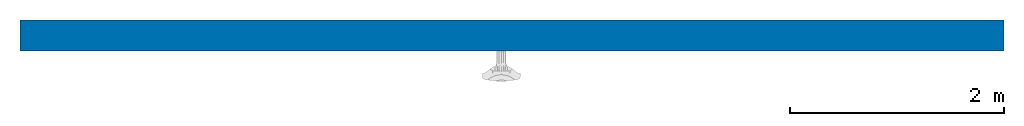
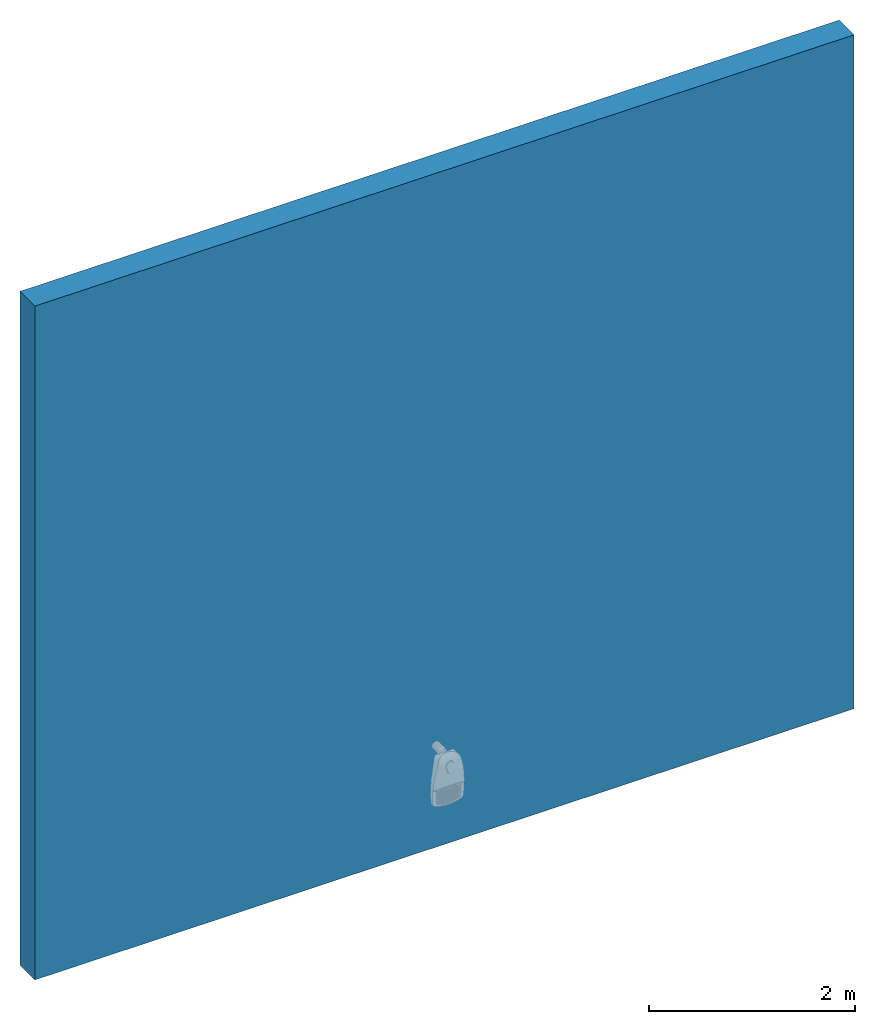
# One storey, incomplete: 1 wall.
"""IFC2X3 building model written with IfcOpenShell, lengths in millimetres."""

from ifc_helpers import new_model, entity, si_unit, converted_unit, derived_unit, direction, frame, frame_2d, origin, place, context, subcontext, project, spatial, rectangle, extrude, material, layer, layer_set, layer_usage, type_object, element, save


model = new_model("IFC2X3")

# Units and contexts
model_context = context("Model", 3, precision=0.01, world=origin(), true_north=direction((6.12303176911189e-17, 1.0)))
body_context = subcontext(model_context, "Body", "Model", "MODEL_VIEW")
ifc_project = project(units=[si_unit("LENGTHUNIT", "METRE", prefix="MILLI"), si_unit("AREAUNIT", "SQUARE_METRE"), si_unit("VOLUMEUNIT", "CUBIC_METRE"), converted_unit("PLANEANGLEUNIT", "DEGREE", entity("IfcRatioMeasure", 0.0174532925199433), si_unit("PLANEANGLEUNIT", "RADIAN"), dimensions=[0, 0, 0, 0, 0, 0, 0]), si_unit("MASSUNIT", "GRAM", prefix="KILO"), si_unit("TIMEUNIT", "SECOND"), si_unit("FREQUENCYUNIT", "HERTZ"), si_unit("THERMODYNAMICTEMPERATUREUNIT", "DEGREE_CELSIUS"), derived_unit("THERMALTRANSMITTANCEUNIT", [(si_unit("MASSUNIT", "GRAM", prefix="KILO"), 1), (si_unit("THERMODYNAMICTEMPERATUREUNIT", "KELVIN"), -1), (si_unit("TIMEUNIT", "SECOND"), -3)]), derived_unit("VOLUMETRICFLOWRATEUNIT", [(si_unit("LENGTHUNIT", "METRE"), 3), (si_unit("TIMEUNIT", "SECOND"), -1)]), si_unit("ELECTRICCURRENTUNIT", "AMPERE"), si_unit("ELECTRICVOLTAGEUNIT", "VOLT"), si_unit("POWERUNIT", "WATT"), si_unit("FORCEUNIT", "NEWTON", prefix="KILO"), si_unit("ILLUMINANCEUNIT", "LUX"), si_unit("LUMINOUSFLUXUNIT", "LUMEN"), si_unit("LUMINOUSINTENSITYUNIT", "CANDELA"), derived_unit("USERDEFINED", [(si_unit("MASSUNIT", "GRAM", prefix="KILO"), -1), (si_unit("LENGTHUNIT", "METRE"), -2), (si_unit("TIMEUNIT", "SECOND"), 3), (si_unit("LUMINOUSFLUXUNIT", "LUMEN"), 1)]), derived_unit("LINEARVELOCITYUNIT", [(si_unit("LENGTHUNIT", "METRE"), 1), (si_unit("TIMEUNIT", "SECOND"), -1)]), si_unit("PRESSUREUNIT", "PASCAL"), derived_unit("USERDEFINED", [(si_unit("LENGTHUNIT", "METRE"), -2), (si_unit("MASSUNIT", "GRAM", prefix="KILO"), 1), (si_unit("TIMEUNIT", "SECOND"), -2)])], contexts=[model_context])

# Site, building, storey
site_placement = place(None, origin())
site = spatial("IfcSite", under=ifc_project, at=site_placement, Name="Default", CompositionType="ELEMENT")
building_placement = place(site_placement, origin())
building = spatial("IfcBuilding", under=site, at=building_placement, CompositionType="ELEMENT")
storey_placement = place(building_placement, origin())
storey = spatial("IfcBuildingStorey", under=building, at=storey_placement, Name="Level 0", CompositionType="ELEMENT", Elevation=0.0)

# Wall
ifc_material_1 = material(Name="Brick, Common")
ifc_layer_1 = layer(ifc_material_1, 102.5)
ifc_material_2 = material(Name="Fiberglass Batt")
ifc_layer_2 = layer(ifc_material_2, 75.0)
ifc_material_3 = material(Name="Concrete Masonry Units _Low Density")
ifc_layer_3 = layer(ifc_material_3, 100.0)
ifc_material_4 = material(Name="Plaster")
ifc_layer_4 = layer(ifc_material_4, 12.5)
ifc_layer_set = layer_set([ifc_layer_1, ifc_layer_2, ifc_layer_3, ifc_layer_4], Name="Basic Wall:Wall-Ext_102Bwk-75Ins-100LBlk-12P")
ifc_layer_usage = layer_usage(ifc_layer_set, "AXIS2", "NEGATIVE", 145.0)
wall_type = type_object("IfcWallType", Name="Basic Wall:Wall-Ext_102Bwk-75Ins-100LBlk-12P", PredefinedType="STANDARD", material=ifc_layer_set)
wall_placement = place(storey_placement, frame((-5692.40814149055, 845.213357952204, 0.0)))
element("IfcWallStandardCase", 1, at=wall_placement, inside=storey, type_object=wall_type, material=ifc_layer_usage, Name="Basic Wall:Wall-Ext_102Bwk-75Ins-100LBlk-12P", ObjectType="Basic Wall:Wall-Ext_102Bwk-75Ins-100LBlk-12P", context=body_context, shape_type="SweptSolid", body=[
    extrude(rectangle(XDim=9200.0, YDim=290.0, at=frame_2d((4600.0, -2.8421709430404e-14), x_axis=(-1.0, 0.0))), origin(), (0.0, 0.0, 1.0), 8000.0),
])

save(model, "model.ifc")
